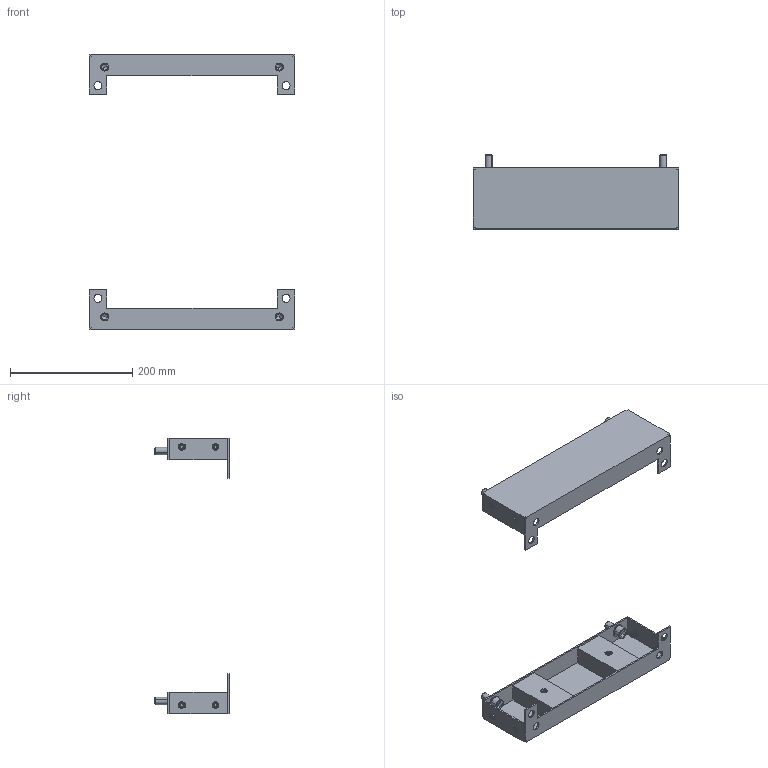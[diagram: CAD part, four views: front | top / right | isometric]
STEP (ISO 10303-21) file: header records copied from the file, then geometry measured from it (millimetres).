
FILE_DESCRIPTION (( 'STEP AP203' ), '1' );
FILE_NAME ('R6PLB40 H=450.STEP', '2025-05-16T11:38:24', ( '' ), ( '' ), 'SwSTEP 2.0', 'SolidWorks 2022', '' );
FILE_SCHEMA (( 'CONFIG_CONTROL_DESIGN' ));
Length unit declared in the file: millimetre
Products named in the file (8): M6 MGS-MPO-0635_straight; RB.3309.00.01.0 simple_-02; 12 DIN 6798 A Zinc; R6PLB40 H=450; RB.3309.00.00.0 СБ simple_-02; M6 MGS-MPO-0635_thread; RB.3309.00.02.0 simple; M12x25 DIN 912 HX cl.8,8 Zinc_stright
Assembly tree (19 placements, depth 3):
  R6PLB40 H=450
    RB.3309.00.00.0 СБ simple_-02  x2
      RB.3309.00.01.0 simple_-02
      M6 MGS-MPO-0635_thread
      RB.3309.00.02.0 simple
      M6 MGS-MPO-0635_straight
    12 DIN 6798 A Zinc  x4
    M12x25 DIN 912 HX cl.8,8 Zinc_stright  x4
Bounding box: 336.7 x 121.5 x 450 mm (x, y, z)
Volume: 435300.7 mm3; surface area: 360525.4 mm2
Topology: 26 solids, 26 shells, 1568 faces, 4128 edges, 2388 vertices
Faces by surface type: plane 640, cylinder 544, bspline 168, sphere 144, cone 40, torus 32
Entity records: 15002 total; most frequent: CARTESIAN_POINT 5755, ORIENTED_EDGE 1768, DIRECTION 1539, EDGE_CURVE 884, VERTEX_POINT 558, VECTOR 533, LINE 533, AXIS2_PLACEMENT_3D 503
